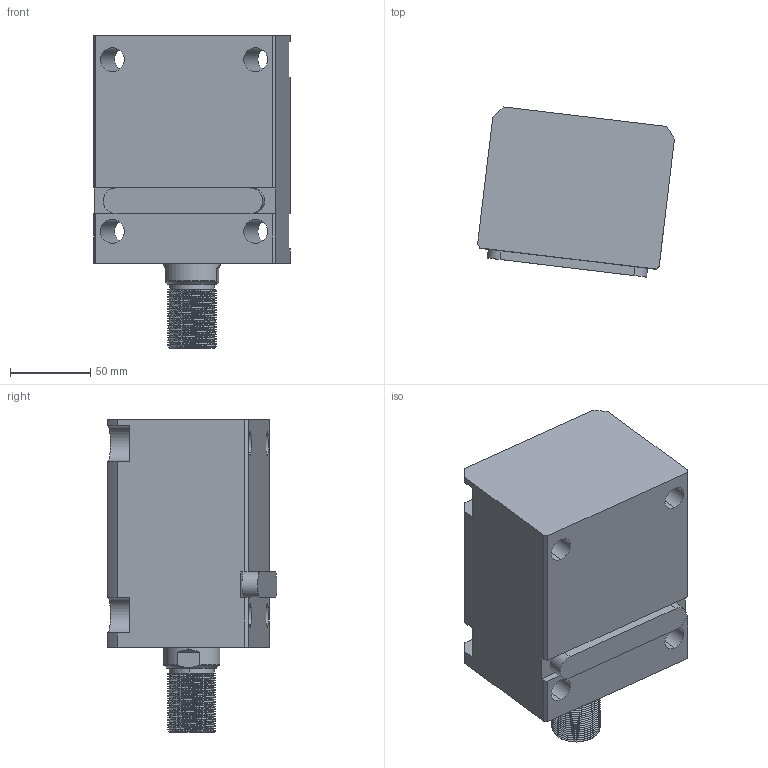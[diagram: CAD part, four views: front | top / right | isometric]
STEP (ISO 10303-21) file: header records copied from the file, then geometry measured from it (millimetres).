
FILE_DESCRIPTION (( 'STEP AP214' ), '1' );
FILE_NAME ('chtb-la63x75w_asm.STEP', '2018-05-17T03:09:56', ( 'Windows' ), ( 'Microsoft' ), 'SwSTEP 2.0', 'SolidWorks 2015', '' );
FILE_SCHEMA (( 'AUTOMOTIVE_DESIGN' ));
Length unit declared in the file: millimetre
Products named in the file (5): CHTB-LA63PJ; CHTB63X75WHSG; CHTB-63QG; chtb-la63x75w_asm; CHTB-LA63X75NBT
Assembly tree (4 placements, depth 2):
  chtb-la63x75w_asm
    CHTB-63QG
    CHTB63X75WHSG
    CHTB-LA63PJ
    CHTB-LA63X75NBT
Bounding box: 122.66 x 105.88 x 195 mm (x, y, z)
Volume: 1236999.6 mm3; surface area: 174774.7 mm2
Topology: 4 solids, 4 shells, 228 faces, 670 edges, 457 vertices
Faces by surface type: cylinder 147, plane 48, bspline 14, cone 13, torus 6
Entity records: 22769 total; most frequent: CARTESIAN_POINT 17126, ORIENTED_EDGE 1332, DIRECTION 940, EDGE_CURVE 666, VERTEX_POINT 457, AXIS2_PLACEMENT_3D 350, EDGE_LOOP 253, LINE 240
